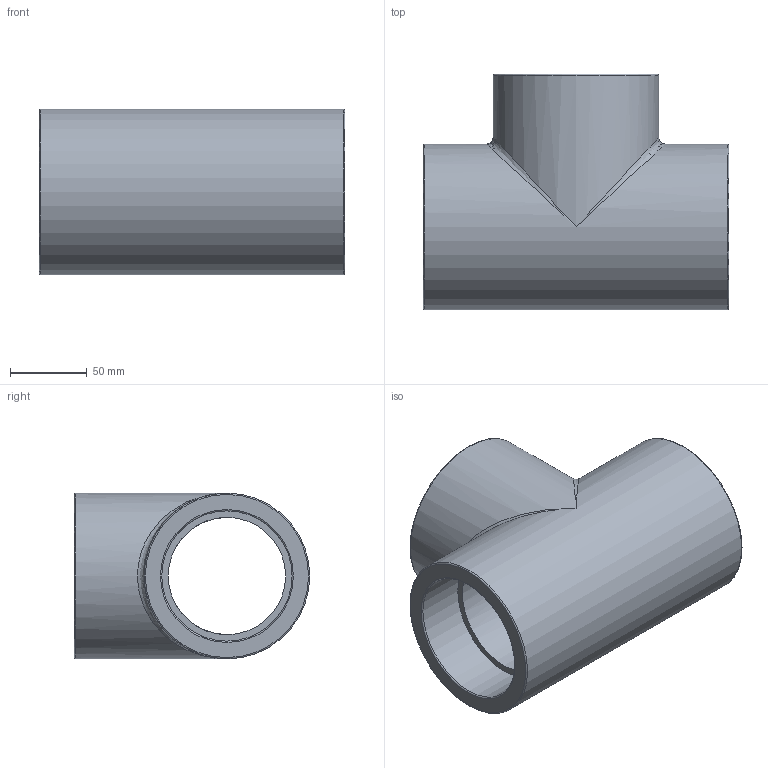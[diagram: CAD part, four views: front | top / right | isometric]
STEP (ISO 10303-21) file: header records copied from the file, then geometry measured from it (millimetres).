
FILE_DESCRIPTION(/* description */ ('PLASSON THREADED TEE PVC 3"'),/* implementation_level */ '2;1');
FILE_NAME(/* name */ 'C:\Dropbox\KIMPROJECTS-Inventor\99-16-3568-Processing\PVC Catalog 2017\050401\050401030.ipt.stp',/* time_stamp */ '2017-12-07T15:55:04+02:00',/* author */ ('KIM'),/* organization */ (''),/* preprocessor_version */ 'ST-DEVELOPER v15.6',/* originating_system */ 'Autodesk Inventor 2015',/* authorisation */ '');
FILE_SCHEMA (('AUTOMOTIVE_DESIGN { 1 0 10303 214 3 1 1 }'));
Length unit declared in the file: millimetre
Products named in the file (1): 050401030
Bounding box: 199 x 153.5 x 108 mm (x, y, z)
Volume: 987572.7 mm3; surface area: 153499.3 mm2
Topology: 1 solids, 1 shells, 20 faces, 46 edges, 26 vertices
Faces by surface type: cylinder 7, plane 6, torus 5, bspline 2
Full cylindrical faces by diameter (mm): 76.433 x2, 84.926 x3, 108 x2
Entity records: 590 total; most frequent: CARTESIAN_POINT 203, DIRECTION 84, ORIENTED_EDGE 46, AXIS2_PLACEMENT_3D 42, EDGE_LOOP 40, EDGE_CURVE 23, VERTEX_POINT 21, FACE_BOUND 20
